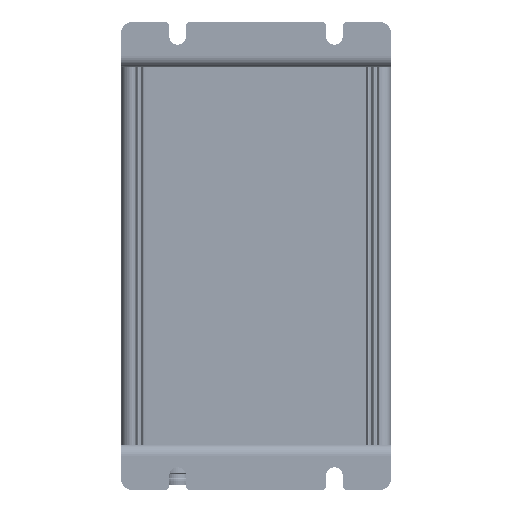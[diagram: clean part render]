
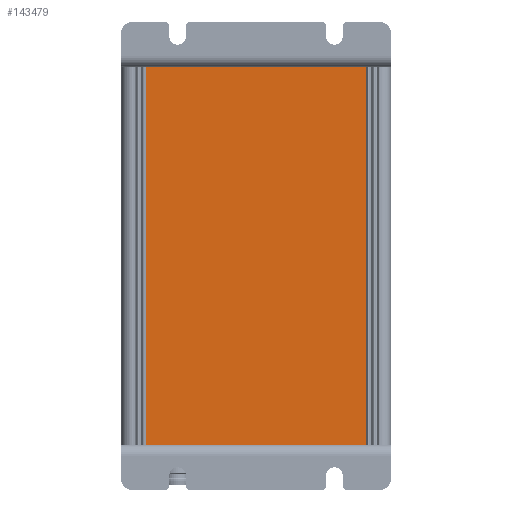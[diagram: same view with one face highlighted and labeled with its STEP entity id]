
A CAD part, front view. The second image highlights one B-rep face of the part: STEP entity #143479.
In plain terms, the highlighted planar face has unit normal (0, -1, 0).
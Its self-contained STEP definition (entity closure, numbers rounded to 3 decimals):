
#464 = CARTESIAN_POINT ( 'NONE',  ( 64.8, -14.28, 0. ) ) ;
#523 = CARTESIAN_POINT ( 'NONE',  ( 31.566, -14.28, 100. ) ) ;
#4980 = ORIENTED_EDGE ( 'NONE', *, *, #187950, .T. ) ;
#7126 = ORIENTED_EDGE ( 'NONE', *, *, #193372, .T. ) ;
#23571 = DIRECTION ( 'NONE',  ( 0., -1., 0. ) ) ;
#23631 = LINE ( 'NONE', #523, #144892 ) ;
#25056 = CARTESIAN_POINT ( 'NONE',  ( 64.8, -14.28, 0. ) ) ;
#25245 = VERTEX_POINT ( 'NONE', #296343 ) ;
#28240 = DIRECTION ( 'NONE',  ( 1., 0., 0. ) ) ;
#60023 = VECTOR ( 'NONE', #304279, 1000. ) ;
#63315 = EDGE_CURVE ( 'NONE', #292431, #25245, #207400, .T. ) ;
#66750 = DIRECTION ( 'NONE',  ( 0., 0., -1. ) ) ;
#73946 = LINE ( 'NONE', #287789, #227067 ) ;
#87785 = ORIENTED_EDGE ( 'NONE', *, *, #63315, .T. ) ;
#96085 = FACE_OUTER_BOUND ( 'NONE', #254072, .T. ) ;
#106353 = AXIS2_PLACEMENT_3D ( 'NONE', #464, #23571, #234518 ) ;
#112144 = VECTOR ( 'NONE', #66750, 1000. ) ;
#113387 = VERTEX_POINT ( 'NONE', #230214 ) ;
#115908 = LINE ( 'NONE', #255952, #112144 ) ;
#124669 = DIRECTION ( 'NONE',  ( 1., 0., 0. ) ) ;
#137581 = EDGE_CURVE ( 'NONE', #113387, #25245, #23631, .T. ) ;
#143479 = ADVANCED_FACE ( 'NONE', ( #96085 ), #256115, .T. ) ;
#144123 = CARTESIAN_POINT ( 'NONE',  ( 64.8, -14.28, 0. ) ) ;
#144892 = VECTOR ( 'NONE', #28240, 1000. ) ;
#187950 = EDGE_CURVE ( 'NONE', #113387, #219800, #115908, .T. ) ;
#193372 = EDGE_CURVE ( 'NONE', #219800, #292431, #73946, .T. ) ;
#194937 = ORIENTED_EDGE ( 'NONE', *, *, #137581, .F. ) ;
#207400 = LINE ( 'NONE', #144123, #60023 ) ;
#219800 = VERTEX_POINT ( 'NONE', #289292 ) ;
#227067 = VECTOR ( 'NONE', #124669, 1000. ) ;
#230214 = CARTESIAN_POINT ( 'NONE',  ( 6.7, -14.28, 100. ) ) ;
#234518 = DIRECTION ( 'NONE',  ( 0., 0., -1. ) ) ;
#254072 = EDGE_LOOP ( 'NONE', ( #194937, #4980, #7126, #87785 ) ) ;
#255952 = CARTESIAN_POINT ( 'NONE',  ( 6.7, -14.28, 0. ) ) ;
#256115 = PLANE ( 'NONE',  #106353 ) ;
#287789 = CARTESIAN_POINT ( 'NONE',  ( 64.8, -14.28, 0. ) ) ;
#289292 = CARTESIAN_POINT ( 'NONE',  ( 6.7, -14.28, 0. ) ) ;
#292431 = VERTEX_POINT ( 'NONE', #25056 ) ;
#296343 = CARTESIAN_POINT ( 'NONE',  ( 64.8, -14.28, 100. ) ) ;
#304279 = DIRECTION ( 'NONE',  ( 0., 0., 1. ) ) ;
